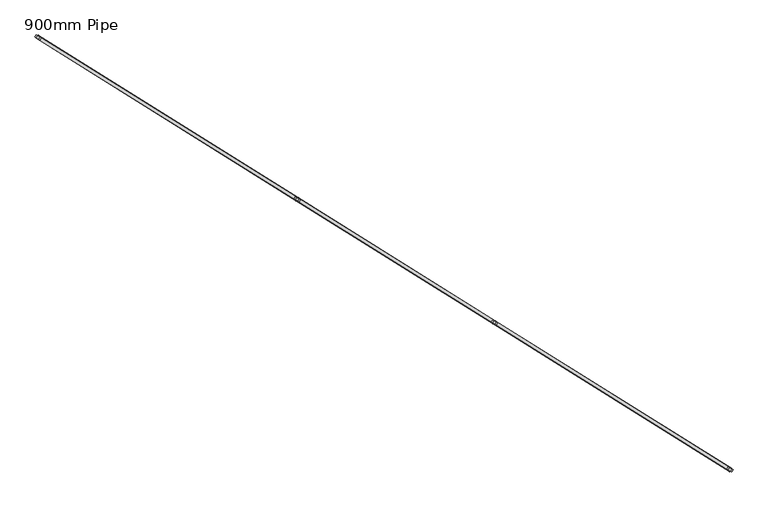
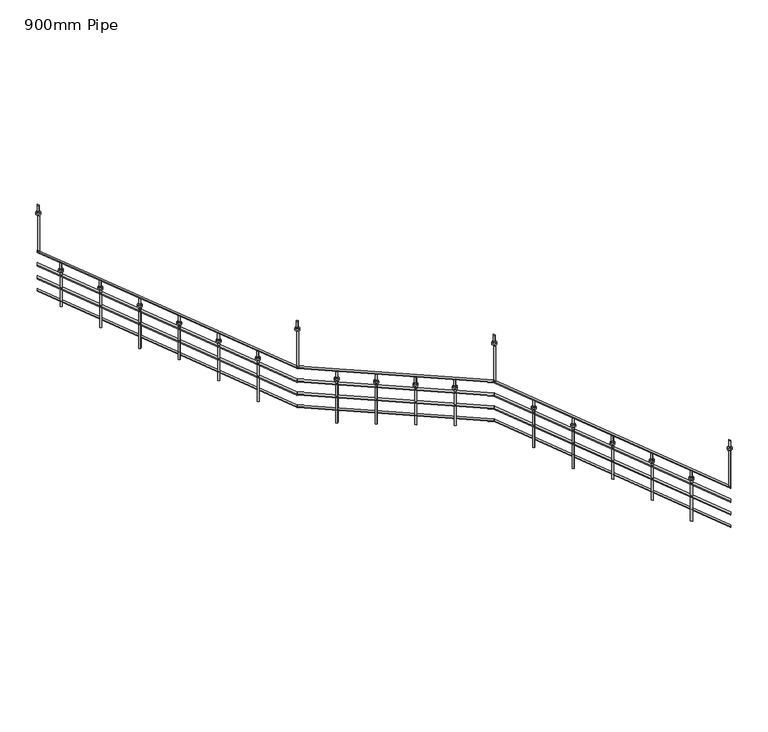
"""IFC4 building model written with IfcOpenShell, lengths in millimetres: railing geometry, 900mm Pipe."""

from ifc_helpers import new_model, si_unit, point, frame, frame_2d, origin, place, context, project, spatial, polyline, circle_curve, ellipse_curve, trimmed, segment, composite_curve, outline, extrude, source, transform, mapped, element, save
from ifc_brep_helpers import plane_surface, cylinder_surface, advanced_brep


def railing_900mm_pipe_0febacbe(model_context):
    return source(origin(), model_context, "Body", "SolidModel", [
        advanced_brep(
        [(43657.8713826, -31909.0560384, -2760.3971154), (43673.7689605, -31883.6145955, -2760.3971154), (41113.7270941, -30319.2982457, -1195.179724), (41129.6246721, -30293.8568028, -1195.179724)],
        [
            (0, 1, ellipse_curve(frame((43665.8201716, -31896.3353169, -2760.3971154), z_axis=(0.8480480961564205, -0.5299192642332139, 0.0), x_axis=(0.0, 0.0, -1.0)), 16.9188545, 15.0)),
            (1, 0, ellipse_curve(frame((43665.8201716, -31896.3353169, -2760.3971154), z_axis=(0.8480480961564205, -0.5299192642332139, 0.0), x_axis=(0.0, 0.0, -1.0)), 16.9188545, 15.0)),
            (2, 3, ellipse_curve(frame((41121.6758831, -30306.5775242, -1195.179724), z_axis=(-0.8480480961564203, 0.5299192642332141, 0.0), x_axis=(0.0, 0.0, -1.0)), 16.9188545, 15.0)),
            (3, 2, ellipse_curve(frame((41121.6758831, -30306.5775242, -1195.179724), z_axis=(-0.8480480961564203, 0.5299192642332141, 0.0), x_axis=(0.0, 0.0, -1.0)), 16.9188545, 15.0)),
            (0, 2),
            (3, 1),
        ],
        [
            plane_surface(frame((43665.8201716, -31896.3353169, -2743.4782609), z_axis=(0.8480480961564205, -0.5299192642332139, 0.0), x_axis=(0.5299192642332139, 0.8480480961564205, 0.0))),
            plane_surface(frame((41121.6758831, -30306.5775242, -1178.2608696), z_axis=(-0.8480480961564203, 0.5299192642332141, 0.0), x_axis=(0.5299192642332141, 0.8480480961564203, 0.0))),
            cylinder_surface(frame((43659.9359983, -31892.6584773, -2756.7770336), z_axis=(0.7518665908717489, -0.46981838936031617, -0.4625660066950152), x_axis=(0.5299192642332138, 0.8480480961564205, 0.0)), 15.0),
        ],
        [
            (0, [[1, 2]]),
            (1, [[3, 4]]),
            (2, [[-1, 5, -4, 6]]),
            (2, [[-2, -6, -3, -5]]),
        ],
    ),
        advanced_brep(
        [(41113.7270941, -30319.2982457, -1193.2902397), (41129.6246721, -30293.8568028, -1193.2902397), (38993.6068537, -28994.5000851, -1036.7685005), (39009.5044317, -28969.0586422, -1036.7685005)],
        [
            (0, 1, ellipse_curve(frame((41121.6758831, -30306.5775242, -1193.2902397), z_axis=(0.8480480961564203, -0.5299192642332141, 0.0), x_axis=(0.0, 0.0, -1.0)), 15.0293701, 15.0)),
            (1, 0, ellipse_curve(frame((41121.6758831, -30306.5775242, -1193.2902397), z_axis=(0.8480480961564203, -0.5299192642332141, 0.0), x_axis=(0.0, 0.0, -1.0)), 15.0293701, 15.0)),
            (2, 3, ellipse_curve(frame((39001.5556427, -28981.7793636, -1036.7685005), z_axis=(-0.8480480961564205, 0.5299192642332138, 0.0), x_axis=(0.0, 0.0, -1.0)), 15.0293701, 15.0)),
            (3, 2, ellipse_curve(frame((39001.5556427, -28981.7793636, -1036.7685005), z_axis=(-0.8480480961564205, 0.5299192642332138, 0.0), x_axis=(0.0, 0.0, -1.0)), 15.0293701, 15.0)),
            (0, 2),
            (3, 1),
        ],
        [
            plane_surface(frame((41121.6758831, -30306.5775242, -1178.2608696), z_axis=(0.8480480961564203, -0.5299192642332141, 0.0), x_axis=(0.5299192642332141, 0.8480480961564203, 0.0))),
            plane_surface(frame((39001.5556427, -28981.7793636, -1021.7391304), z_axis=(-0.8480480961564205, 0.5299192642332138, 0.0), x_axis=(0.5299192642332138, 0.8480480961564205, 0.0))),
            cylinder_surface(frame((41120.8810117, -30306.0808334, -1193.2315568), z_axis=(0.8463908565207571, -0.5288837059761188, -0.06248634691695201), x_axis=(0.5299192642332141, 0.8480480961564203, 0.0)), 15.0),
        ],
        [
            (0, [[1, 2]]),
            (1, [[3, 4]]),
            (2, [[-1, 5, -4, 6]]),
            (2, [[-2, -6, -3, -5]]),
        ],
    ),
        advanced_brep(
        [(38993.6068537, -28994.5000851, -1038.6579849), (39009.5044317, -28969.0586422, -1038.6579849), (36195.0481364, -27245.7665131, 683.0811455), (36210.9457144, -27220.3250702, 683.0811455)],
        [
            (0, 1, ellipse_curve(frame((39001.5556427, -28981.7793636, -1038.6579849), z_axis=(0.8480480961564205, -0.5299192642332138, 0.0), x_axis=(0.0, 0.0, -1.0)), 16.9188545, 15.0)),
            (1, 0, ellipse_curve(frame((39001.5556427, -28981.7793636, -1038.6579849), z_axis=(0.8480480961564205, -0.5299192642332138, 0.0), x_axis=(0.0, 0.0, -1.0)), 16.9188545, 15.0)),
            (2, 3, ellipse_curve(frame((36202.9969254, -27233.0457917, 683.0811455), z_axis=(-0.8480480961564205, 0.5299192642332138, 0.0), x_axis=(0.0, 0.0, -1.0)), 16.9188545, 15.0)),
            (3, 2, ellipse_curve(frame((36202.9969254, -27233.0457917, 683.0811455), z_axis=(-0.8480480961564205, 0.5299192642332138, 0.0), x_axis=(0.0, 0.0, -1.0)), 16.9188545, 15.0)),
            (0, 2),
            (3, 1),
        ],
        [
            plane_surface(frame((39001.5556427, -28981.7793636, -1021.7391304), z_axis=(0.8480480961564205, -0.5299192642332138, 0.0), x_axis=(0.5299192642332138, 0.8480480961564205, 0.0))),
            plane_surface(frame((36202.9969254, -27233.0457917, 700.0), z_axis=(-0.8480480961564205, 0.5299192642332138, 0.0), x_axis=(0.5299192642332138, 0.8480480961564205, 0.0))),
            cylinder_surface(frame((38995.6714694, -28978.1025241, -1035.0379031), z_axis=(0.7518665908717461, -0.46981838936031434, -0.46256600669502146), x_axis=(0.5299192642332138, 0.8480480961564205, 0.0)), 15.0),
        ],
        [
            (0, [[1, 2]]),
            (1, [[3, 4]]),
            (2, [[-1, 5, -4, 6]]),
            (2, [[-2, -6, -3, -5]]),
        ],
    ),
        advanced_brep(
        [(43655.2217863, -31913.2962788, -2966.0367335), (43676.4185569, -31879.374355, -2966.0367335), (41111.0774978, -30323.5384861, -1400.8193422), (41132.2742684, -30289.6165623, -1400.8193422)],
        [
            (0, 1, ellipse_curve(frame((43665.8201716, -31896.3353169, -2966.0367335), z_axis=(0.8480480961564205, -0.5299192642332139, 0.0), x_axis=(0.0, 0.0, -1.0)), 22.5584726, 20.0)),
            (1, 0, ellipse_curve(frame((43665.8201716, -31896.3353169, -2966.0367335), z_axis=(0.8480480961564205, -0.5299192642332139, 0.0), x_axis=(0.0, 0.0, -1.0)), 22.5584726, 20.0)),
            (2, 3, ellipse_curve(frame((41121.6758831, -30306.5775242, -1400.8193422), z_axis=(-0.8480480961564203, 0.5299192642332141, 0.0), x_axis=(0.0, 0.0, -1.0)), 22.5584726, 20.0)),
            (3, 2, ellipse_curve(frame((41121.6758831, -30306.5775242, -1400.8193422), z_axis=(-0.8480480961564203, 0.5299192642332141, 0.0), x_axis=(0.0, 0.0, -1.0)), 22.5584726, 20.0)),
            (0, 2),
            (3, 1),
        ],
        [
            plane_surface(frame((43665.8201716, -31896.3353169, -2943.4782609), z_axis=(0.8480480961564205, -0.5299192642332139, 0.0), x_axis=(0.5299192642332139, 0.8480480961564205, 0.0))),
            plane_surface(frame((41121.6758831, -30306.5775242, -1378.2608696), z_axis=(-0.8480480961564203, 0.5299192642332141, 0.0), x_axis=(0.5299192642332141, 0.8480480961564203, 0.0))),
            cylinder_surface(frame((43657.9746071, -31891.4328642, -2961.2099578), z_axis=(0.7518665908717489, -0.46981838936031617, -0.4625660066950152), x_axis=(0.5299192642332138, 0.8480480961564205, 0.0)), 20.0),
        ],
        [
            (0, [[1, 2]]),
            (1, [[3, 4]]),
            (2, [[-1, 5, -4, 6]]),
            (2, [[-2, -6, -3, -5]]),
        ],
    ),
        advanced_brep(
        [(41111.0774978, -30323.5384861, -1398.3000297), (41132.2742684, -30289.6165623, -1398.3000297), (38990.9572574, -28998.7403256, -1241.7782906), (39012.154028, -28964.8184017, -1241.7782906)],
        [
            (0, 1, ellipse_curve(frame((41121.6758831, -30306.5775242, -1398.3000297), z_axis=(0.8480480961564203, -0.5299192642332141, 0.0), x_axis=(0.0, 0.0, -1.0)), 20.0391601, 20.0)),
            (1, 0, ellipse_curve(frame((41121.6758831, -30306.5775242, -1398.3000297), z_axis=(0.8480480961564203, -0.5299192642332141, 0.0), x_axis=(0.0, 0.0, -1.0)), 20.0391601, 20.0)),
            (2, 3, ellipse_curve(frame((39001.5556427, -28981.7793636, -1241.7782906), z_axis=(-0.8480480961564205, 0.5299192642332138, 0.0), x_axis=(0.0, 0.0, -1.0)), 20.0391601, 20.0)),
            (3, 2, ellipse_curve(frame((39001.5556427, -28981.7793636, -1241.7782906), z_axis=(-0.8480480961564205, 0.5299192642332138, 0.0), x_axis=(0.0, 0.0, -1.0)), 20.0391601, 20.0)),
            (0, 2),
            (3, 1),
        ],
        [
            plane_surface(frame((41121.6758831, -30306.5775242, -1378.2608696), z_axis=(0.8480480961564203, -0.5299192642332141, 0.0), x_axis=(0.5299192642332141, 0.8480480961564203, 0.0))),
            plane_surface(frame((39001.5556427, -28981.7793636, -1221.7391304), z_axis=(-0.8480480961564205, 0.5299192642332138, 0.0), x_axis=(0.5299192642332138, 0.8480480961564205, 0.0))),
            cylinder_surface(frame((41120.6160546, -30305.9152698, -1398.2217859), z_axis=(0.8463908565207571, -0.5288837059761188, -0.06248634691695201), x_axis=(0.5299192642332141, 0.8480480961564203, 0.0)), 20.0),
        ],
        [
            (0, [[1, 2]]),
            (1, [[3, 4]]),
            (2, [[-1, 5, -4, 6]]),
            (2, [[-2, -6, -3, -5]]),
        ],
    ),
        advanced_brep(
        [(38990.9572574, -28998.7403256, -1244.2976031), (39012.154028, -28964.8184017, -1244.2976031), (36192.3985401, -27250.0067536, 477.4415274), (36213.5953107, -27216.0848297, 477.4415274)],
        [
            (0, 1, ellipse_curve(frame((39001.5556427, -28981.7793636, -1244.2976031), z_axis=(0.8480480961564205, -0.5299192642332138, 0.0), x_axis=(0.0, 0.0, -1.0)), 22.5584726, 20.0)),
            (1, 0, ellipse_curve(frame((39001.5556427, -28981.7793636, -1244.2976031), z_axis=(0.8480480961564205, -0.5299192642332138, 0.0), x_axis=(0.0, 0.0, -1.0)), 22.5584726, 20.0)),
            (2, 3, ellipse_curve(frame((36202.9969254, -27233.0457917, 477.4415274), z_axis=(-0.8480480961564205, 0.5299192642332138, 0.0), x_axis=(0.0, 0.0, -1.0)), 22.5584726, 20.0)),
            (3, 2, ellipse_curve(frame((36202.9969254, -27233.0457917, 477.4415274), z_axis=(-0.8480480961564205, 0.5299192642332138, 0.0), x_axis=(0.0, 0.0, -1.0)), 22.5584726, 20.0)),
            (0, 2),
            (3, 1),
        ],
        [
            plane_surface(frame((39001.5556427, -28981.7793636, -1221.7391304), z_axis=(0.8480480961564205, -0.5299192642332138, 0.0), x_axis=(0.5299192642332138, 0.8480480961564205, 0.0))),
            plane_surface(frame((36202.9969254, -27233.0457917, 500.0), z_axis=(-0.8480480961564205, 0.5299192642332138, 0.0), x_axis=(0.5299192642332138, 0.8480480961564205, 0.0))),
            cylinder_surface(frame((38993.7100783, -28976.8769109, -1239.4708274), z_axis=(0.7518665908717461, -0.46981838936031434, -0.46256600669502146), x_axis=(0.5299192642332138, 0.8480480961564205, 0.0)), 20.0),
        ],
        [
            (0, [[1, 2]]),
            (1, [[3, 4]]),
            (2, [[-1, 5, -4, 6]]),
            (2, [[-2, -6, -3, -5]]),
        ],
    ),
        advanced_brep(
        [(43655.2217863, -31913.2962788, -3166.0367335), (43676.4185569, -31879.374355, -3166.0367335), (41111.0774978, -30323.5384861, -1600.8193422), (41132.2742684, -30289.6165623, -1600.8193422)],
        [
            (0, 1, ellipse_curve(frame((43665.8201716, -31896.3353169, -3166.0367335), z_axis=(0.8480480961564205, -0.5299192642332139, 0.0), x_axis=(0.0, 0.0, -1.0)), 22.5584726, 20.0)),
            (1, 0, ellipse_curve(frame((43665.8201716, -31896.3353169, -3166.0367335), z_axis=(0.8480480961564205, -0.5299192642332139, 0.0), x_axis=(0.0, 0.0, -1.0)), 22.5584726, 20.0)),
            (2, 3, ellipse_curve(frame((41121.6758831, -30306.5775242, -1600.8193422), z_axis=(-0.8480480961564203, 0.5299192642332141, 0.0), x_axis=(0.0, 0.0, -1.0)), 22.5584726, 20.0)),
            (3, 2, ellipse_curve(frame((41121.6758831, -30306.5775242, -1600.8193422), z_axis=(-0.8480480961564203, 0.5299192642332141, 0.0), x_axis=(0.0, 0.0, -1.0)), 22.5584726, 20.0)),
            (0, 2),
            (3, 1),
        ],
        [
            plane_surface(frame((43665.8201716, -31896.3353169, -3143.4782609), z_axis=(0.8480480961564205, -0.5299192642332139, 0.0), x_axis=(0.5299192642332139, 0.8480480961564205, 0.0))),
            plane_surface(frame((41121.6758831, -30306.5775242, -1578.2608696), z_axis=(-0.8480480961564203, 0.5299192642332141, 0.0), x_axis=(0.5299192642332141, 0.8480480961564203, 0.0))),
            cylinder_surface(frame((43657.9746071, -31891.4328642, -3161.2099578), z_axis=(0.7518665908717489, -0.46981838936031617, -0.4625660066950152), x_axis=(0.5299192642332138, 0.8480480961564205, 0.0)), 20.0),
        ],
        [
            (0, [[1, 2]]),
            (1, [[3, 4]]),
            (2, [[-1, 5, -4, 6]]),
            (2, [[-2, -6, -3, -5]]),
        ],
    ),
        advanced_brep(
        [(41111.0774978, -30323.5384861, -1598.3000297), (41132.2742684, -30289.6165623, -1598.3000297), (38990.9572574, -28998.7403256, -1441.7782906), (39012.154028, -28964.8184017, -1441.7782906)],
        [
            (0, 1, ellipse_curve(frame((41121.6758831, -30306.5775242, -1598.3000297), z_axis=(0.8480480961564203, -0.5299192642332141, 0.0), x_axis=(0.0, 0.0, -1.0)), 20.0391601, 20.0)),
            (1, 0, ellipse_curve(frame((41121.6758831, -30306.5775242, -1598.3000297), z_axis=(0.8480480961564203, -0.5299192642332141, 0.0), x_axis=(0.0, 0.0, -1.0)), 20.0391601, 20.0)),
            (2, 3, ellipse_curve(frame((39001.5556427, -28981.7793636, -1441.7782906), z_axis=(-0.8480480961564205, 0.5299192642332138, 0.0), x_axis=(0.0, 0.0, -1.0)), 20.0391601, 20.0)),
            (3, 2, ellipse_curve(frame((39001.5556427, -28981.7793636, -1441.7782906), z_axis=(-0.8480480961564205, 0.5299192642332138, 0.0), x_axis=(0.0, 0.0, -1.0)), 20.0391601, 20.0)),
            (0, 2),
            (3, 1),
        ],
        [
            plane_surface(frame((41121.6758831, -30306.5775242, -1578.2608696), z_axis=(0.8480480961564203, -0.5299192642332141, 0.0), x_axis=(0.5299192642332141, 0.8480480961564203, 0.0))),
            plane_surface(frame((39001.5556427, -28981.7793636, -1421.7391304), z_axis=(-0.8480480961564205, 0.5299192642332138, 0.0), x_axis=(0.5299192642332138, 0.8480480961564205, 0.0))),
            cylinder_surface(frame((41120.6160546, -30305.9152698, -1598.2217859), z_axis=(0.8463908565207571, -0.5288837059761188, -0.06248634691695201), x_axis=(0.5299192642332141, 0.8480480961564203, 0.0)), 20.0),
        ],
        [
            (0, [[1, 2]]),
            (1, [[3, 4]]),
            (2, [[-1, 5, -4, 6]]),
            (2, [[-2, -6, -3, -5]]),
        ],
    ),
        advanced_brep(
        [(38990.9572574, -28998.7403256, -1444.2976031), (39012.154028, -28964.8184017, -1444.2976031), (36192.3985401, -27250.0067536, 277.4415274), (36213.5953107, -27216.0848297, 277.4415274)],
        [
            (0, 1, ellipse_curve(frame((39001.5556427, -28981.7793636, -1444.2976031), z_axis=(0.8480480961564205, -0.5299192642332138, 0.0), x_axis=(0.0, 0.0, -1.0)), 22.5584726, 20.0)),
            (1, 0, ellipse_curve(frame((39001.5556427, -28981.7793636, -1444.2976031), z_axis=(0.8480480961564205, -0.5299192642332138, 0.0), x_axis=(0.0, 0.0, -1.0)), 22.5584726, 20.0)),
            (2, 3, ellipse_curve(frame((36202.9969254, -27233.0457917, 277.4415274), z_axis=(-0.8480480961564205, 0.5299192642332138, 0.0), x_axis=(0.0, 0.0, -1.0)), 22.5584726, 20.0)),
            (3, 2, ellipse_curve(frame((36202.9969254, -27233.0457917, 277.4415274), z_axis=(-0.8480480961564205, 0.5299192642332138, 0.0), x_axis=(0.0, 0.0, -1.0)), 22.5584726, 20.0)),
            (0, 2),
            (3, 1),
        ],
        [
            plane_surface(frame((39001.5556427, -28981.7793636, -1421.7391304), z_axis=(0.8480480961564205, -0.5299192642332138, 0.0), x_axis=(0.5299192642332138, 0.8480480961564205, 0.0))),
            plane_surface(frame((36202.9969254, -27233.0457917, 300.0), z_axis=(-0.8480480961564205, 0.5299192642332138, 0.0), x_axis=(0.5299192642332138, 0.8480480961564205, 0.0))),
            cylinder_surface(frame((38993.7100783, -28976.8769109, -1439.4708274), z_axis=(0.7518665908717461, -0.46981838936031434, -0.46256600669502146), x_axis=(0.5299192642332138, 0.8480480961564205, 0.0)), 20.0),
        ],
        [
            (0, [[1, 2]]),
            (1, [[3, 4]]),
            (2, [[-1, 5, -4, 6]]),
            (2, [[-2, -6, -3, -5]]),
        ],
    ),
        advanced_brep(
        [(43657.8713826, -31909.0560384, -3360.3971154), (43673.7689605, -31883.6145955, -3360.3971154), (41113.7270941, -30319.2982457, -1795.179724), (41129.6246721, -30293.8568028, -1795.179724)],
        [
            (0, 1, ellipse_curve(frame((43665.8201716, -31896.3353169, -3360.3971154), z_axis=(0.8480480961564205, -0.5299192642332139, 0.0), x_axis=(0.0, 0.0, -1.0)), 16.9188545, 15.0)),
            (1, 0, ellipse_curve(frame((43665.8201716, -31896.3353169, -3360.3971154), z_axis=(0.8480480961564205, -0.5299192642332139, 0.0), x_axis=(0.0, 0.0, -1.0)), 16.9188545, 15.0)),
            (2, 3, ellipse_curve(frame((41121.6758831, -30306.5775242, -1795.179724), z_axis=(-0.8480480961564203, 0.5299192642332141, 0.0), x_axis=(0.0, 0.0, -1.0)), 16.9188545, 15.0)),
            (3, 2, ellipse_curve(frame((41121.6758831, -30306.5775242, -1795.179724), z_axis=(-0.8480480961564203, 0.5299192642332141, 0.0), x_axis=(0.0, 0.0, -1.0)), 16.9188545, 15.0)),
            (0, 2),
            (3, 1),
        ],
        [
            plane_surface(frame((43665.8201716, -31896.3353169, -3343.4782609), z_axis=(0.8480480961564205, -0.5299192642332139, 0.0), x_axis=(0.5299192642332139, 0.8480480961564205, 0.0))),
            plane_surface(frame((41121.6758831, -30306.5775242, -1778.2608696), z_axis=(-0.8480480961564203, 0.5299192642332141, 0.0), x_axis=(0.5299192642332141, 0.8480480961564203, 0.0))),
            cylinder_surface(frame((43659.9359983, -31892.6584773, -3356.7770336), z_axis=(0.7518665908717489, -0.46981838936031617, -0.4625660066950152), x_axis=(0.5299192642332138, 0.8480480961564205, 0.0)), 15.0),
        ],
        [
            (0, [[1, 2]]),
            (1, [[3, 4]]),
            (2, [[-1, 5, -4, 6]]),
            (2, [[-2, -6, -3, -5]]),
        ],
    ),
        advanced_brep(
        [(41113.7270941, -30319.2982457, -1793.2902397), (41129.6246721, -30293.8568028, -1793.2902397), (38993.6068537, -28994.5000851, -1636.7685005), (39009.5044317, -28969.0586422, -1636.7685005)],
        [
            (0, 1, ellipse_curve(frame((41121.6758831, -30306.5775242, -1793.2902397), z_axis=(0.8480480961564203, -0.5299192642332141, 0.0), x_axis=(0.0, 0.0, -1.0)), 15.0293701, 15.0)),
            (1, 0, ellipse_curve(frame((41121.6758831, -30306.5775242, -1793.2902397), z_axis=(0.8480480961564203, -0.5299192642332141, 0.0), x_axis=(0.0, 0.0, -1.0)), 15.0293701, 15.0)),
            (2, 3, ellipse_curve(frame((39001.5556427, -28981.7793636, -1636.7685005), z_axis=(-0.8480480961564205, 0.5299192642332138, 0.0), x_axis=(0.0, 0.0, -1.0)), 15.0293701, 15.0)),
            (3, 2, ellipse_curve(frame((39001.5556427, -28981.7793636, -1636.7685005), z_axis=(-0.8480480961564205, 0.5299192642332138, 0.0), x_axis=(0.0, 0.0, -1.0)), 15.0293701, 15.0)),
            (0, 2),
            (3, 1),
        ],
        [
            plane_surface(frame((41121.6758831, -30306.5775242, -1778.2608696), z_axis=(0.8480480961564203, -0.5299192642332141, 0.0), x_axis=(0.5299192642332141, 0.8480480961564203, 0.0))),
            plane_surface(frame((39001.5556427, -28981.7793636, -1621.7391304), z_axis=(-0.8480480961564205, 0.5299192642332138, 0.0), x_axis=(0.5299192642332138, 0.8480480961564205, 0.0))),
            cylinder_surface(frame((41120.8810117, -30306.0808334, -1793.2315568), z_axis=(0.8463908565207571, -0.5288837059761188, -0.06248634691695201), x_axis=(0.5299192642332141, 0.8480480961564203, 0.0)), 15.0),
        ],
        [
            (0, [[1, 2]]),
            (1, [[3, 4]]),
            (2, [[-1, 5, -4, 6]]),
            (2, [[-2, -6, -3, -5]]),
        ],
    ),
        advanced_brep(
        [(38993.6068537, -28994.5000851, -1638.6579849), (39009.5044317, -28969.0586422, -1638.6579849), (36195.0481364, -27245.7665131, 83.0811455), (36210.9457144, -27220.3250702, 83.0811455)],
        [
            (0, 1, ellipse_curve(frame((39001.5556427, -28981.7793636, -1638.6579849), z_axis=(0.8480480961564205, -0.5299192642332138, 0.0), x_axis=(0.0, 0.0, -1.0)), 16.9188545, 15.0)),
            (1, 0, ellipse_curve(frame((39001.5556427, -28981.7793636, -1638.6579849), z_axis=(0.8480480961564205, -0.5299192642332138, 0.0), x_axis=(0.0, 0.0, -1.0)), 16.9188545, 15.0)),
            (2, 3, ellipse_curve(frame((36202.9969254, -27233.0457917, 83.0811455), z_axis=(-0.8480480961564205, 0.5299192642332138, 0.0), x_axis=(0.0, 0.0, -1.0)), 16.9188545, 15.0)),
            (3, 2, ellipse_curve(frame((36202.9969254, -27233.0457917, 83.0811455), z_axis=(-0.8480480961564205, 0.5299192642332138, 0.0), x_axis=(0.0, 0.0, -1.0)), 16.9188545, 15.0)),
            (0, 2),
            (3, 1),
        ],
        [
            plane_surface(frame((39001.5556427, -28981.7793636, -1621.7391304), z_axis=(0.8480480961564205, -0.5299192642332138, 0.0), x_axis=(0.5299192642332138, 0.8480480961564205, 0.0))),
            plane_surface(frame((36202.9969254, -27233.0457917, 100.0), z_axis=(-0.8480480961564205, 0.5299192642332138, 0.0), x_axis=(0.5299192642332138, 0.8480480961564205, 0.0))),
            cylinder_surface(frame((38995.6714694, -28978.1025241, -1635.0379031), z_axis=(0.7518665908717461, -0.46981838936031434, -0.46256600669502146), x_axis=(0.5299192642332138, 0.8480480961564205, 0.0)), 15.0),
        ],
        [
            (0, [[1, 2]]),
            (1, [[3, 4]]),
            (2, [[-1, 5, -4, 6]]),
            (2, [[-2, -6, -3, -5]]),
        ],
    ),
        extrude(outline(composite_curve([segment(trimmed(circle_curve(frame_2d((0.0, -31.7499999)), 31.75), [point((0.0, -63.5))], [point((0.0, 0.0))], False, "CARTESIAN"), True, "CONTINUOUS"), segment(trimmed(circle_curve(frame_2d((0.0, -31.7499999)), 31.75), [point((0.0, 0.0))], [point((0.0, -63.5))], False, "CARTESIAN"), True, "CONTINUOUS")], self_intersect=False), holes=[composite_curve([segment(trimmed(circle_curve(frame_2d((0.0, -31.7499999)), 12.7), [point((0.0, -44.4499999))], [point((0.0, -19.05))], True, "CARTESIAN"), True, "CONTINUOUS"), segment(trimmed(circle_curve(frame_2d((0.0, -31.7499999)), 12.7), [point((0.0, -19.05))], [point((0.0, -44.4499999))], True, "CARTESIAN"), True, "CONTINUOUS")], self_intersect=False)]), frame((36477.6069066, -27419.6167184, 392.8282609), z_axis=(0.5299192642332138, 0.8480480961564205, 0.0), x_axis=(0.0, 0.0, 1.0)), (0.0, 0.0, 1.0), 25.4),
        extrude(outline(polyline([(36475.9215988, -27392.3563811), (36462.4616495, -27413.8968028), (36440.9212278, -27400.4368535), (36454.3811771, -27378.8964318), (36475.9215988, -27392.3563811)])), frame((0.0, 0.0, -156.5217391), z_axis=(0.0, 0.0, 1.0), x_axis=(1.0, 0.0, 0.0)), (0.0, 0.0, 1.0), 517.6),
        extrude(outline(polyline([(317.5, 0.0), (317.5, -25.4), (235.226087, -25.4), (221.9739131, 0.0), (317.5, 0.0)])), frame((36439.9111688, -27396.0618071, 742.0782609), z_axis=(0.5299192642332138, 0.8480480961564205, 0.0), x_axis=(0.0, 0.0, -1.0)), (0.0, 0.0, 1.0), 25.4),
        extrude(outline(composite_curve([segment(trimmed(circle_curve(frame_2d((0.0, -31.7499999)), 31.75), [point((0.0, -63.5))], [point((0.0, 0.0))], False, "CARTESIAN"), True, "CONTINUOUS"), segment(trimmed(circle_curve(frame_2d((0.0, -31.7499999)), 31.75), [point((0.0, 0.0))], [point((0.0, -63.5))], False, "CARTESIAN"), True, "CONTINUOUS")], self_intersect=False), holes=[composite_curve([segment(trimmed(circle_curve(frame_2d((0.0, -31.7499999)), 12.7), [point((0.0, -44.45))], [point((0.0, -19.05))], True, "CARTESIAN"), True, "CONTINUOUS"), segment(trimmed(circle_curve(frame_2d((0.0, -31.7499999)), 12.7), [point((0.0, -19.05))], [point((0.0, -44.45))], True, "CARTESIAN"), True, "CONTINUOUS")], self_intersect=False)]), frame((36901.6309547, -27684.5763505, 131.9586957), z_axis=(0.5299192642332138, 0.8480480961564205, 0.0), x_axis=(0.0, 0.0, 1.0)), (0.0, 0.0, 1.0), 25.4),
        extrude(outline(polyline([(36899.9456468, -27657.3160132), (36886.4856975, -27678.8564349), (36864.9452759, -27665.3964856), (36878.4052252, -27643.8560639), (36899.9456468, -27657.3160132)])), frame((0.0, 0.0, -469.5652174), z_axis=(0.0, 0.0, 1.0), x_axis=(1.0, 0.0, 0.0)), (0.0, 0.0, 1.0), 569.773913),
        extrude(outline(polyline([(317.5, 0.0), (317.5, -25.4), (235.226087, -25.4), (221.9739131, 0.0), (317.5, 0.0)])), frame((36863.9352168, -27661.0214392, 481.2086957), z_axis=(0.5299192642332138, 0.8480480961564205, 0.0), x_axis=(0.0, 0.0, -1.0)), (0.0, 0.0, 1.0), 25.4),
        extrude(outline(composite_curve([segment(trimmed(circle_curve(frame_2d((0.0, -31.75)), 31.75), [point((0.0, -63.5))], [point((0.0, 0.0))], False, "CARTESIAN"), True, "CONTINUOUS"), segment(trimmed(circle_curve(frame_2d((0.0, -31.75)), 31.75), [point((0.0, 0.0))], [point((0.0, -63.5))], False, "CARTESIAN"), True, "CONTINUOUS")], self_intersect=False), holes=[composite_curve([segment(trimmed(circle_curve(frame_2d((0.0, -31.75)), 12.7), [point((0.0, -44.45))], [point((0.0, -19.05))], True, "CARTESIAN"), True, "CONTINUOUS"), segment(trimmed(circle_curve(frame_2d((0.0, -31.75)), 12.7), [point((0.0, -19.05))], [point((0.0, -44.45))], True, "CARTESIAN"), True, "CONTINUOUS")], self_intersect=False)]), frame((37325.6550028, -27949.5359826, -128.9108696), z_axis=(0.5299192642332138, 0.8480480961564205, 0.0), x_axis=(0.0, 0.0, 1.0)), (0.0, 0.0, 1.0), 25.4),
        extrude(outline(polyline([(37323.9696949, -27922.2756454), (37310.5097456, -27943.816067), (37288.969324, -27930.3561177), (37302.4292733, -27908.8156961), (37323.9696949, -27922.2756454)])), frame((0.0, 0.0, -782.6086957), z_axis=(0.0, 0.0, 1.0), x_axis=(1.0, 0.0, 0.0)), (0.0, 0.0, 1.0), 621.9478261),
        extrude(outline(polyline([(317.5, 0.0), (317.5, -25.4), (235.2260869, -25.4), (221.973913, 0.0), (317.5, 0.0)])), frame((37287.9592649, -27925.9810713, 220.3391304), z_axis=(0.5299192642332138, 0.8480480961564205, 0.0), x_axis=(0.0, 0.0, -1.0)), (0.0, 0.0, 1.0), 25.4),
        extrude(outline(composite_curve([segment(trimmed(circle_curve(frame_2d((0.0, -31.75)), 31.75), [point((0.0, -63.5))], [point((0.0, 0.0))], False, "CARTESIAN"), True, "CONTINUOUS"), segment(trimmed(circle_curve(frame_2d((0.0, -31.75)), 31.75), [point((0.0, 0.0))], [point((0.0, -63.5))], False, "CARTESIAN"), True, "CONTINUOUS")], self_intersect=False), holes=[composite_curve([segment(trimmed(circle_curve(frame_2d((0.0, -31.75)), 12.7), [point((0.0, -44.45))], [point((0.0, -19.05))], True, "CARTESIAN"), True, "CONTINUOUS"), segment(trimmed(circle_curve(frame_2d((0.0, -31.75)), 12.7), [point((0.0, -19.05))], [point((0.0, -44.45))], True, "CARTESIAN"), True, "CONTINUOUS")], self_intersect=False)]), frame((37749.6790509, -28214.4956147, -389.7804348), z_axis=(0.5299192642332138, 0.8480480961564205, 0.0), x_axis=(0.0, 0.0, 1.0)), (0.0, 0.0, 1.0), 25.4),
        extrude(outline(polyline([(37747.993743, -28187.2352775), (37734.5337937, -28208.7756991), (37712.993372, -28195.3157498), (37726.4533214, -28173.7753282), (37747.993743, -28187.2352775)])), frame((0.0, 0.0, -939.1304348), z_axis=(0.0, 0.0, 1.0), x_axis=(1.0, 0.0, 0.0)), (0.0, 0.0, 1.0), 517.6),
        extrude(outline(polyline([(317.5, 0.0), (317.5, -25.4), (235.2260869, -25.4), (221.973913, 0.0), (317.5, 0.0)])), frame((37711.983313, -28190.9407034, -40.5304348), z_axis=(0.5299192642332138, 0.8480480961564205, 0.0), x_axis=(0.0, 0.0, -1.0)), (0.0, 0.0, 1.0), 25.4),
        extrude(outline(composite_curve([segment(trimmed(circle_curve(frame_2d((0.0, -31.7500001)), 31.75), [point((0.0, -63.5000001))], [point((0.0, 0.0))], False, "CARTESIAN"), True, "CONTINUOUS"), segment(trimmed(circle_curve(frame_2d((0.0, -31.7500001)), 31.75), [point((0.0, 0.0))], [point((0.0, -63.5000001))], False, "CARTESIAN"), True, "CONTINUOUS")], self_intersect=False), holes=[composite_curve([segment(trimmed(circle_curve(frame_2d((0.0, -31.7500001)), 12.7), [point((0.0, -44.45))], [point((0.0, -19.0500001))], True, "CARTESIAN"), True, "CONTINUOUS"), segment(trimmed(circle_curve(frame_2d((0.0, -31.7500001)), 12.7), [point((0.0, -19.0500001))], [point((0.0, -44.45))], True, "CARTESIAN"), True, "CONTINUOUS")], self_intersect=False)]), frame((38173.703099, -28479.4552469, -650.65), z_axis=(0.5299192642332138, 0.8480480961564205, 0.0), x_axis=(0.0, 0.0, 1.0)), (0.0, 0.0, 1.0), 25.4),
        extrude(outline(polyline([(38172.0177911, -28452.1949096), (38158.5578418, -28473.7353312), (38137.0174201, -28460.2753819), (38150.4773694, -28438.7349603), (38172.0177911, -28452.1949096)])), frame((0.0, 0.0, -1252.173913), z_axis=(0.0, 0.0, 1.0), x_axis=(1.0, 0.0, 0.0)), (0.0, 0.0, 1.0), 569.773913),
        extrude(outline(polyline([(317.5, 0.0), (317.5, -25.4), (235.226087, -25.4), (221.973913, 0.0), (317.5, 0.0)])), frame((38136.0073611, -28455.9003356, -301.4), z_axis=(0.5299192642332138, 0.8480480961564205, 0.0), x_axis=(0.0, 0.0, -1.0)), (0.0, 0.0, 1.0), 25.4),
        extrude(outline(composite_curve([segment(trimmed(circle_curve(frame_2d((0.0, -31.75)), 31.75), [point((0.0, -63.5))], [point((0.0, 0.0))], False, "CARTESIAN"), True, "CONTINUOUS"), segment(trimmed(circle_curve(frame_2d((0.0, -31.75)), 31.75), [point((0.0, 0.0))], [point((0.0, -63.5))], False, "CARTESIAN"), True, "CONTINUOUS")], self_intersect=False), holes=[composite_curve([segment(trimmed(circle_curve(frame_2d((0.0, -31.75)), 12.7), [point((0.0, -44.4499999))], [point((0.0, -19.05))], True, "CARTESIAN"), True, "CONTINUOUS"), segment(trimmed(circle_curve(frame_2d((0.0, -31.75)), 12.7), [point((0.0, -19.05))], [point((0.0, -44.4499999))], True, "CARTESIAN"), True, "CONTINUOUS")], self_intersect=False)]), frame((38597.727147, -28744.414879, -911.5195652), z_axis=(0.5299192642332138, 0.8480480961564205, 0.0), x_axis=(0.0, 0.0, 1.0)), (0.0, 0.0, 1.0), 25.4),
        extrude(outline(polyline([(38596.0418392, -28717.1545417), (38582.5818898, -28738.6949634), (38561.0414682, -28725.235014), (38574.5014175, -28703.6945924), (38596.0418392, -28717.1545417)])), frame((0.0, 0.0, -1565.2173913), z_axis=(0.0, 0.0, 1.0), x_axis=(1.0, 0.0, 0.0)), (0.0, 0.0, 1.0), 621.9478261),
        extrude(outline(polyline([(317.5, 0.0), (317.5, -25.4), (235.226087, -25.4), (221.9739131, 0.0), (317.5, 0.0)])), frame((38560.0314092, -28720.8599677, -562.2695652), z_axis=(0.5299192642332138, 0.8480480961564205, 0.0), x_axis=(0.0, 0.0, -1.0)), (0.0, 0.0, 1.0), 25.4),
        extrude(outline(composite_curve([segment(trimmed(circle_curve(frame_2d((0.0, -31.75)), 31.75), [point((0.0, -63.5))], [point((0.0, 0.0))], False, "CARTESIAN"), True, "CONTINUOUS"), segment(trimmed(circle_curve(frame_2d((0.0, -31.75)), 31.75), [point((0.0, 0.0))], [point((0.0, -63.5))], False, "CARTESIAN"), True, "CONTINUOUS")], self_intersect=False), holes=[composite_curve([segment(trimmed(circle_curve(frame_2d((0.0, -31.75)), 12.7), [point((0.0, -44.45))], [point((0.0, -19.05))], True, "CARTESIAN"), True, "CONTINUOUS"), segment(trimmed(circle_curve(frame_2d((0.0, -31.75)), 12.7), [point((0.0, -19.05))], [point((0.0, -44.45))], True, "CARTESIAN"), True, "CONTINUOUS")], self_intersect=False)]), frame((39445.7752432, -29274.3341432, -1203.6934783), z_axis=(0.5299192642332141, 0.8480480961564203, 0.0), x_axis=(0.0, 0.0, 1.0)), (0.0, 0.0, 1.0), 25.4),
        extrude(outline(polyline([(39444.0899353, -29247.0738059), (39430.629986, -29268.6142276), (39409.0895644, -29255.1542783), (39422.5495137, -29233.6138566), (39444.0899353, -29247.0738059)])), frame((0.0, 0.0, -1878.2608696), z_axis=(0.0, 0.0, 1.0), x_axis=(1.0, 0.0, 0.0)), (0.0, 0.0, 1.0), 642.8173913),
        extrude(outline(polyline([(317.5, 0.0), (317.5, -25.4), (229.3951304, -25.4), (227.8048695, 0.0), (317.5, 0.0)])), frame((39408.0795053, -29250.7792319, -854.4434783), z_axis=(0.5299192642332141, 0.8480480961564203, 0.0), x_axis=(0.0, 0.0, -1.0)), (0.0, 0.0, 1.0), 25.4),
        extrude(outline(composite_curve([segment(trimmed(circle_curve(frame_2d((0.0, -31.75)), 31.75), [point((0.0, -63.5))], [point((0.0, 0.0))], False, "CARTESIAN"), True, "CONTINUOUS"), segment(trimmed(circle_curve(frame_2d((0.0, -31.75)), 31.75), [point((0.0, 0.0))], [point((0.0, -63.5))], False, "CARTESIAN"), True, "CONTINUOUS")], self_intersect=False), holes=[composite_curve([segment(trimmed(circle_curve(frame_2d((0.0, -31.75)), 12.7), [point((0.0, -44.45))], [point((0.0, -19.0500001))], True, "CARTESIAN"), True, "CONTINUOUS"), segment(trimmed(circle_curve(frame_2d((0.0, -31.75)), 12.7), [point((0.0, -19.0500001))], [point((0.0, -44.45))], True, "CARTESIAN"), True, "CONTINUOUS")], self_intersect=False)]), frame((39869.7992913, -29539.2937753, -1234.9978261), z_axis=(0.5299192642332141, 0.8480480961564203, 0.0), x_axis=(0.0, 0.0, 1.0)), (0.0, 0.0, 1.0), 25.4),
        extrude(outline(polyline([(39868.1139834, -29512.0334381), (39854.6540341, -29533.5738597), (39833.1136124, -29520.1139104), (39846.5735617, -29498.5734888), (39868.1139834, -29512.0334381)])), frame((0.0, 0.0, -1878.2608696), z_axis=(0.0, 0.0, 1.0), x_axis=(1.0, 0.0, 0.0)), (0.0, 0.0, 1.0), 611.5130435),
        extrude(outline(polyline([(317.5, 0.0), (317.5, -25.4), (229.3951304, -25.4), (227.8048696, 0.0), (317.5, 0.0)])), frame((39832.1035534, -29515.738864, -885.7478261), z_axis=(0.5299192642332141, 0.8480480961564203, 0.0), x_axis=(0.0, 0.0, -1.0)), (0.0, 0.0, 1.0), 25.4),
        extrude(outline(composite_curve([segment(trimmed(circle_curve(frame_2d((0.0, -31.7499999)), 31.75), [point((0.0, -63.5))], [point((0.0, 0.0))], False, "CARTESIAN"), True, "CONTINUOUS"), segment(trimmed(circle_curve(frame_2d((0.0, -31.7499999)), 31.75), [point((0.0, 0.0))], [point((0.0, -63.5))], False, "CARTESIAN"), True, "CONTINUOUS")], self_intersect=False), holes=[composite_curve([segment(trimmed(circle_curve(frame_2d((0.0, -31.7499999)), 12.7), [point((0.0, -44.4499999))], [point((0.0, -19.0499999))], True, "CARTESIAN"), True, "CONTINUOUS"), segment(trimmed(circle_curve(frame_2d((0.0, -31.7499999)), 12.7), [point((0.0, -19.0499999))], [point((0.0, -44.4499999))], True, "CARTESIAN"), True, "CONTINUOUS")], self_intersect=False)]), frame((40293.8233393, -29804.2534074, -1266.3021739), z_axis=(0.5299192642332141, 0.8480480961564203, 0.0), x_axis=(0.0, 0.0, 1.0)), (0.0, 0.0, 1.0), 25.4),
        extrude(outline(polyline([(40292.1380315, -29776.9930702), (40278.6780822, -29798.5334918), (40257.1376605, -29785.0735425), (40270.5976098, -29763.5331209), (40292.1380315, -29776.9930702)])), frame((0.0, 0.0, -1878.2608696), z_axis=(0.0, 0.0, 1.0), x_axis=(1.0, 0.0, 0.0)), (0.0, 0.0, 1.0), 580.2086957),
        extrude(outline(polyline([(317.5, 0.0), (317.5, -25.4), (229.3951304, -25.4), (227.8048696, 0.0), (317.5, 0.0)])), frame((40256.1276015, -29780.6984961, -917.0521739), z_axis=(0.5299192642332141, 0.8480480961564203, 0.0), x_axis=(0.0, 0.0, -1.0)), (0.0, 0.0, 1.0), 25.4),
        extrude(outline(composite_curve([segment(trimmed(circle_curve(frame_2d((0.0, -31.75)), 31.75), [point((0.0, -63.5))], [point((0.0, 0.0))], False, "CARTESIAN"), True, "CONTINUOUS"), segment(trimmed(circle_curve(frame_2d((0.0, -31.75)), 31.75), [point((0.0, 0.0))], [point((0.0, -63.5))], False, "CARTESIAN"), True, "CONTINUOUS")], self_intersect=False), holes=[composite_curve([segment(trimmed(circle_curve(frame_2d((0.0, -31.75)), 12.7), [point((0.0, -44.45))], [point((0.0, -19.05))], True, "CARTESIAN"), True, "CONTINUOUS"), segment(trimmed(circle_curve(frame_2d((0.0, -31.75)), 12.7), [point((0.0, -19.05))], [point((0.0, -44.45))], True, "CARTESIAN"), True, "CONTINUOUS")], self_intersect=False)]), frame((40717.8473874, -30069.2130396, -1297.6065217), z_axis=(0.5299192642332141, 0.8480480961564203, 0.0), x_axis=(0.0, 0.0, 1.0)), (0.0, 0.0, 1.0), 25.4),
        extrude(outline(polyline([(40716.1620795, -30041.9527023), (40702.7021302, -30063.4931239), (40681.1617086, -30050.0331746), (40694.6216579, -30028.492753), (40716.1620795, -30041.9527023)])), frame((0.0, 0.0, -1878.2608696), z_axis=(0.0, 0.0, 1.0), x_axis=(1.0, 0.0, 0.0)), (0.0, 0.0, 1.0), 548.9043478),
        extrude(outline(polyline([(317.5, 0.0), (317.5, -25.4), (229.3951305, -25.4), (227.8048696, 0.0), (317.5, 0.0)])), frame((40680.1516495, -30045.6581283, -948.3565217), z_axis=(0.5299192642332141, 0.8480480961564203, 0.0), x_axis=(0.0, 0.0, -1.0)), (0.0, 0.0, 1.0), 25.4),
        extrude(outline(composite_curve([segment(trimmed(circle_curve(frame_2d((0.0, -31.7500001)), 31.75), [point((0.0, -63.5))], [point((0.0, 0.0))], False, "CARTESIAN"), True, "CONTINUOUS"), segment(trimmed(circle_curve(frame_2d((0.0, -31.7500001)), 31.75), [point((0.0, 0.0))], [point((0.0, -63.5))], False, "CARTESIAN"), True, "CONTINUOUS")], self_intersect=False), holes=[composite_curve([segment(trimmed(circle_curve(frame_2d((0.0, -31.7500001)), 12.7), [point((0.0, -44.45))], [point((0.0, -19.0500001))], True, "CARTESIAN"), True, "CONTINUOUS"), segment(trimmed(circle_curve(frame_2d((0.0, -31.7500001)), 12.7), [point((0.0, -19.0500001))], [point((0.0, -44.45))], True, "CARTESIAN"), True, "CONTINUOUS")], self_intersect=False)]), frame((41565.8954836, -30599.1323038, -1589.7804348), z_axis=(0.5299192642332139, 0.8480480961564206, 0.0), x_axis=(0.0, 0.0, 1.0)), (0.0, 0.0, 1.0), 25.4),
        extrude(outline(polyline([(41564.2101757, -30571.8719665), (41550.7502264, -30593.4123882), (41529.2098047, -30579.9524389), (41542.6697541, -30558.4120172), (41564.2101757, -30571.8719665)])), frame((0.0, 0.0, -2191.3043478), z_axis=(0.0, 0.0, 1.0), x_axis=(1.0, 0.0, 0.0)), (0.0, 0.0, 1.0), 569.773913),
        extrude(outline(polyline([(317.5, 0.0), (317.5, -25.4), (235.2260869, -25.4), (221.973913, 0.0), (317.5, 0.0)])), frame((41528.1997457, -30575.5773925, -1240.5304348), z_axis=(0.5299192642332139, 0.8480480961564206, 0.0), x_axis=(0.0, 0.0, -1.0)), (0.0, 0.0, 1.0), 25.4),
        extrude(outline(composite_curve([segment(trimmed(circle_curve(frame_2d((0.0, -31.75)), 31.75), [point((0.0, -63.5))], [point((0.0, 0.0))], False, "CARTESIAN"), True, "CONTINUOUS"), segment(trimmed(circle_curve(frame_2d((0.0, -31.75)), 31.75), [point((0.0, 0.0))], [point((0.0, -63.5))], False, "CARTESIAN"), True, "CONTINUOUS")], self_intersect=False), holes=[composite_curve([segment(trimmed(circle_curve(frame_2d((0.0, -31.75)), 12.7), [point((0.0, -44.45))], [point((0.0, -19.0500001))], True, "CARTESIAN"), True, "CONTINUOUS"), segment(trimmed(circle_curve(frame_2d((0.0, -31.75)), 12.7), [point((0.0, -19.0500001))], [point((0.0, -44.45))], True, "CARTESIAN"), True, "CONTINUOUS")], self_intersect=False)]), frame((41989.9195317, -30864.0919359, -1850.65), z_axis=(0.5299192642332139, 0.8480480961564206, 0.0), x_axis=(0.0, 0.0, 1.0)), (0.0, 0.0, 1.0), 25.4),
        extrude(outline(polyline([(41988.2342238, -30836.8315986), (41974.7742745, -30858.3720203), (41953.2338528, -30844.912071), (41966.6938021, -30823.3716493), (41988.2342238, -30836.8315986)])), frame((0.0, 0.0, -2504.3478261), z_axis=(0.0, 0.0, 1.0), x_axis=(1.0, 0.0, 0.0)), (0.0, 0.0, 1.0), 621.9478261),
        extrude(outline(polyline([(317.5, 0.0), (317.5, -25.4), (235.226087, -25.4), (221.973913, 0.0), (317.5, 0.0)])), frame((41952.2237938, -30840.5370246, -1501.4), z_axis=(0.5299192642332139, 0.8480480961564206, 0.0), x_axis=(0.0, 0.0, -1.0)), (0.0, 0.0, 1.0), 25.4),
        extrude(outline(composite_curve([segment(trimmed(circle_curve(frame_2d((0.0, -31.7499999)), 31.75), [point((0.0, -63.5))], [point((0.0, 0.0))], False, "CARTESIAN"), True, "CONTINUOUS"), segment(trimmed(circle_curve(frame_2d((0.0, -31.7499999)), 31.75), [point((0.0, 0.0))], [point((0.0, -63.5))], False, "CARTESIAN"), True, "CONTINUOUS")], self_intersect=False), holes=[composite_curve([segment(trimmed(circle_curve(frame_2d((0.0, -31.7499999)), 12.7), [point((0.0, -44.4499999))], [point((0.0, -19.05))], True, "CARTESIAN"), True, "CONTINUOUS"), segment(trimmed(circle_curve(frame_2d((0.0, -31.7499999)), 12.7), [point((0.0, -19.05))], [point((0.0, -44.4499999))], True, "CARTESIAN"), True, "CONTINUOUS")], self_intersect=False)]), frame((42413.9435797, -31129.051568, -2111.5195652), z_axis=(0.5299192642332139, 0.8480480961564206, 0.0), x_axis=(0.0, 0.0, 1.0)), (0.0, 0.0, 1.0), 25.4),
        extrude(outline(polyline([(42412.2582719, -31101.7912308), (42398.7983225, -31123.3316524), (42377.2579009, -31109.8717031), (42390.7178502, -31088.3312815), (42412.2582719, -31101.7912308)])), frame((0.0, 0.0, -2660.8695652), z_axis=(0.0, 0.0, 1.0), x_axis=(1.0, 0.0, 0.0)), (0.0, 0.0, 1.0), 517.6),
        extrude(outline(polyline([(317.5, 0.0), (317.5, -25.4), (235.226087, -25.4), (221.9739131, 0.0), (317.5, 0.0)])), frame((42376.2478419, -31105.4966567, -1762.2695652), z_axis=(0.5299192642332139, 0.8480480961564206, 0.0), x_axis=(0.0, 0.0, -1.0)), (0.0, 0.0, 1.0), 25.4),
        extrude(outline(composite_curve([segment(trimmed(circle_curve(frame_2d((0.0, -31.7499999)), 31.75), [point((0.0, -63.5))], [point((0.0, 0.0))], False, "CARTESIAN"), True, "CONTINUOUS"), segment(trimmed(circle_curve(frame_2d((0.0, -31.7499999)), 31.75), [point((0.0, 0.0))], [point((0.0, -63.5))], False, "CARTESIAN"), True, "CONTINUOUS")], self_intersect=False), holes=[composite_curve([segment(trimmed(circle_curve(frame_2d((0.0, -31.7499999)), 12.7), [point((0.0, -44.45))], [point((0.0, -19.0499999))], True, "CARTESIAN"), True, "CONTINUOUS"), segment(trimmed(circle_curve(frame_2d((0.0, -31.7499999)), 12.7), [point((0.0, -19.0499999))], [point((0.0, -44.45))], True, "CARTESIAN"), True, "CONTINUOUS")], self_intersect=False)]), frame((42837.9676278, -31394.0112001, -2372.3891304), z_axis=(0.5299192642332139, 0.8480480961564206, 0.0), x_axis=(0.0, 0.0, 1.0)), (0.0, 0.0, 1.0), 25.4),
        extrude(outline(polyline([(42836.2823199, -31366.7508629), (42822.8223706, -31388.2912845), (42801.281949, -31374.8313352), (42814.7418983, -31353.2909136), (42836.2823199, -31366.7508629)])), frame((0.0, 0.0, -2973.9130435), z_axis=(0.0, 0.0, 1.0), x_axis=(1.0, 0.0, 0.0)), (0.0, 0.0, 1.0), 569.773913),
        extrude(outline(polyline([(317.5, 0.0), (317.5, -25.4000001), (235.226087, -25.4000001), (221.9739131, 0.0), (317.5, 0.0)])), frame((42800.2718899, -31370.4562888, -2023.1391304), z_axis=(0.5299192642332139, 0.8480480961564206, 0.0), x_axis=(0.0, 0.0, -1.0)), (0.0, 0.0, 1.0), 25.4),
        extrude(outline(composite_curve([segment(trimmed(circle_curve(frame_2d((0.0, -31.7500001)), 31.75), [point((0.0, -63.5))], [point((0.0, 0.0))], False, "CARTESIAN"), True, "CONTINUOUS"), segment(trimmed(circle_curve(frame_2d((0.0, -31.7500001)), 31.75), [point((0.0, 0.0))], [point((0.0, -63.5))], False, "CARTESIAN"), True, "CONTINUOUS")], self_intersect=False), holes=[composite_curve([segment(trimmed(circle_curve(frame_2d((0.0, -31.7500001)), 12.7), [point((0.0, -44.45))], [point((0.0, -19.05))], True, "CARTESIAN"), True, "CONTINUOUS"), segment(trimmed(circle_curve(frame_2d((0.0, -31.7500001)), 12.7), [point((0.0, -19.05))], [point((0.0, -44.45))], True, "CARTESIAN"), True, "CONTINUOUS")], self_intersect=False)]), frame((43261.9916759, -31658.9708323, -2633.2586957), z_axis=(0.5299192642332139, 0.8480480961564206, 0.0), x_axis=(0.0, 0.0, 1.0)), (0.0, 0.0, 1.0), 25.4),
        extrude(outline(polyline([(43260.306368, -31631.710495), (43246.8464187, -31653.2509166), (43225.3059971, -31639.7909673), (43238.7659464, -31618.2505457), (43260.306368, -31631.710495)])), frame((0.0, 0.0, -3286.9565217), z_axis=(0.0, 0.0, 1.0), x_axis=(1.0, 0.0, 0.0)), (0.0, 0.0, 1.0), 621.9478261),
        extrude(outline(polyline([(317.5, 0.0), (317.5, -25.4), (235.2260869, -25.4), (221.973913, 0.0), (317.5, 0.0)])), frame((43224.295938, -31635.415921, -2284.0086957), z_axis=(0.5299192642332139, 0.8480480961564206, 0.0), x_axis=(0.0, 0.0, -1.0)), (0.0, 0.0, 1.0), 25.4),
        extrude(outline(composite_curve([segment(trimmed(circle_curve(frame_2d((0.0, -31.7499999)), 31.75), [point((0.0, -63.5))], [point((0.0, 0.0))], False, "CARTESIAN"), True, "CONTINUOUS"), segment(trimmed(circle_curve(frame_2d((0.0, -31.7499999)), 31.75), [point((0.0, 0.0))], [point((0.0, -63.5))], False, "CARTESIAN"), True, "CONTINUOUS")], self_intersect=False), holes=[composite_curve([segment(trimmed(circle_curve(frame_2d((0.0, -31.7499999)), 12.7), [point((0.0, -44.45))], [point((0.0, -19.05))], True, "CARTESIAN"), True, "CONTINUOUS"), segment(trimmed(circle_curve(frame_2d((0.0, -31.7499999)), 12.7), [point((0.0, -19.05))], [point((0.0, -44.45))], True, "CARTESIAN"), True, "CONTINUOUS")], self_intersect=False)]), frame((39021.7511951, -29009.3745111, -442.3891304), z_axis=(0.5299192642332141, 0.8480480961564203, 0.0), x_axis=(0.0, 0.0, 1.0)), (0.0, 0.0, 1.0), 25.4),
        extrude(outline(polyline([(0.0, -25.4), (0.0, 0.0), (547.0036522, 0.0), (548.5939131, -25.4), (0.0, -25.4)])), frame((38985.0655163, -28990.1946462, -474.1391304), z_axis=(0.5299192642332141, 0.8480480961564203, 0.0), x_axis=(0.0, 0.0, -1.0)), (0.0, 0.0, 1.0), 25.4),
        extrude(outline(polyline([(317.5, 0.0), (317.5, -25.4), (229.3951305, -25.4), (227.8048696, 0.0), (317.5, 0.0)])), frame((38984.0554572, -28985.8195998, -93.1391304), z_axis=(0.5299192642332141, 0.8480480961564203, 0.0), x_axis=(0.0, 0.0, -1.0)), (0.0, 0.0, 1.0), 25.4),
        extrude(outline(composite_curve([segment(trimmed(circle_curve(frame_2d((0.0, -31.7500001)), 31.75), [point((0.0, -63.5))], [point((0.0, 0.0))], False, "CARTESIAN"), True, "CONTINUOUS"), segment(trimmed(circle_curve(frame_2d((0.0, -31.7500001)), 31.75), [point((0.0, 0.0))], [point((0.0, -63.5))], False, "CARTESIAN"), True, "CONTINUOUS")], self_intersect=False), holes=[composite_curve([segment(trimmed(circle_curve(frame_2d((0.0, -31.7500001)), 12.7), [point((0.0, -44.45))], [point((0.0, -19.05))], True, "CARTESIAN"), True, "CONTINUOUS"), segment(trimmed(circle_curve(frame_2d((0.0, -31.7500001)), 12.7), [point((0.0, -19.05))], [point((0.0, -44.45))], True, "CARTESIAN"), True, "CONTINUOUS")], self_intersect=False)]), frame((41141.8714355, -30334.1726717, -598.9108696), z_axis=(0.5299192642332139, 0.8480480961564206, 0.0), x_axis=(0.0, 0.0, 1.0)), (0.0, 0.0, 1.0), 25.4),
        extrude(outline(polyline([(0.0, -25.4), (0.0, 0.0), (542.6304347, 0.0), (555.8826087, -25.4), (0.0, -25.4)])), frame((41105.1857567, -30314.9928067, -630.6608696), z_axis=(0.5299192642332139, 0.8480480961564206, 0.0), x_axis=(0.0, 0.0, -1.0)), (0.0, 0.0, 1.0), 25.4),
        extrude(outline(polyline([(317.5, 0.0), (317.5, -25.4), (235.2260869, -25.4), (221.973913, 0.0), (317.5, 0.0)])), frame((41104.1756976, -30310.6177604, -249.6608696), z_axis=(0.5299192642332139, 0.8480480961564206, 0.0), x_axis=(0.0, 0.0, -1.0)), (0.0, 0.0, 1.0), 25.4),
        extrude(outline(composite_curve([segment(trimmed(circle_curve(frame_2d((0.0, -31.75)), 31.75), [point((0.0, -63.5))], [point((0.0, 0.0))], False, "CARTESIAN"), True, "CONTINUOUS"), segment(trimmed(circle_curve(frame_2d((0.0, -31.75)), 31.75), [point((0.0, 0.0))], [point((0.0, -63.5))], False, "CARTESIAN"), True, "CONTINUOUS")], self_intersect=False), holes=[composite_curve([segment(trimmed(circle_curve(frame_2d((0.0, -31.75)), 12.7), [point((0.0, -44.45))], [point((0.0, -19.05))], True, "CARTESIAN"), True, "CONTINUOUS"), segment(trimmed(circle_curve(frame_2d((0.0, -31.75)), 12.7), [point((0.0, -19.05))], [point((0.0, -44.45))], True, "CARTESIAN"), True, "CONTINUOUS")], self_intersect=False)]), frame((36233.793079, -27267.2649299, 1272.8282609), z_axis=(0.5299192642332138, 0.8480480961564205, 0.0), x_axis=(0.0, 0.0, 1.0)), (0.0, 0.0, 1.0), 25.4),
        extrude(outline(polyline([(0.0, -25.4), (0.0, 0.0), (542.6304348, 0.0), (555.8826087, -25.4), (0.0, -25.4)])), frame((36197.1074002, -27248.085065, 1241.0782609), z_axis=(0.5299192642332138, 0.8480480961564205, 0.0), x_axis=(0.0, 0.0, -1.0)), (0.0, 0.0, 1.0), 25.4),
        extrude(outline(polyline([(317.5, 0.0), (317.5, -25.4), (235.226087, -25.4), (221.9739131, 0.0), (317.5, 0.0)])), frame((36196.0973411, -27243.7100186, 1622.0782609), z_axis=(0.5299192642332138, 0.8480480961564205, 0.0), x_axis=(0.0, 0.0, -1.0)), (0.0, 0.0, 1.0), 25.4),
        extrude(outline(composite_curve([segment(trimmed(circle_curve(frame_2d((0.0, -31.7500001)), 31.75), [point((0.0, -63.5))], [point((0.0, 0.0))], False, "CARTESIAN"), True, "CONTINUOUS"), segment(trimmed(circle_curve(frame_2d((0.0, -31.7500001)), 31.75), [point((0.0, 0.0))], [point((0.0, -63.5))], False, "CARTESIAN"), True, "CONTINUOUS")], self_intersect=False), holes=[composite_curve([segment(trimmed(circle_curve(frame_2d((0.0, -31.7500001)), 12.7), [point((0.0, -44.45))], [point((0.0, -19.0500001))], True, "CARTESIAN"), True, "CONTINUOUS"), segment(trimmed(circle_curve(frame_2d((0.0, -31.7500001)), 12.7), [point((0.0, -19.0500001))], [point((0.0, -44.45))], True, "CARTESIAN"), True, "CONTINUOUS")], self_intersect=False)]), frame((43675.4151228, -31917.3064736, -2157.6065217), z_axis=(0.5299192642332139, 0.8480480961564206, 0.0), x_axis=(0.0, 0.0, 1.0)), (0.0, 0.0, 1.0), 25.4),
        extrude(outline(polyline([(0.0, -25.4000001), (0.0, 0.0), (542.6304348, 0.0), (555.8826087, -25.4000001), (0.0, -25.4000001)])), frame((43638.7294439, -31898.1266086, -2189.3565217), z_axis=(0.5299192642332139, 0.8480480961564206, 0.0), x_axis=(0.0, 0.0, -1.0)), (0.0, 0.0, 1.0), 25.4),
        extrude(outline(polyline([(317.5, 0.0), (317.5, -25.4), (235.226087, -25.4), (221.9739131, 0.0), (317.5, 0.0)])), frame((43637.7193849, -31893.7515623, -1808.3565217), z_axis=(0.5299192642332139, 0.8480480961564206, 0.0), x_axis=(0.0, 0.0, -1.0)), (0.0, 0.0, 1.0), 25.4),
    ])


if __name__ == "__main__":
    model = new_model("IFC4")
    model_context = context("Model", 3, world=origin())
    ifc_project = project(units=[si_unit("LENGTHUNIT", "METRE", prefix="MILLI")], contexts=[model_context])
    site = spatial("IfcSite", under=ifc_project)
    building = spatial("IfcBuilding", under=site)
    placement = place(None, origin())
    railing_900mm_pipe_shape = railing_900mm_pipe_0febacbe(model_context)
    element("IfcRailing", 1, ObjectType="900mm Pipe", at=placement, inside=building, context=model_context, shape_type="MappedRepresentation", body=[
        mapped(railing_900mm_pipe_shape, transform((0.0, 0.0, 0.0), x_axis=(1.0, 0.0, 0.0), y_axis=(0.0, 1.0, 0.0), z_axis=(0.0, 0.0, 1.0))),
    ])
    save(model, "model.ifc")
